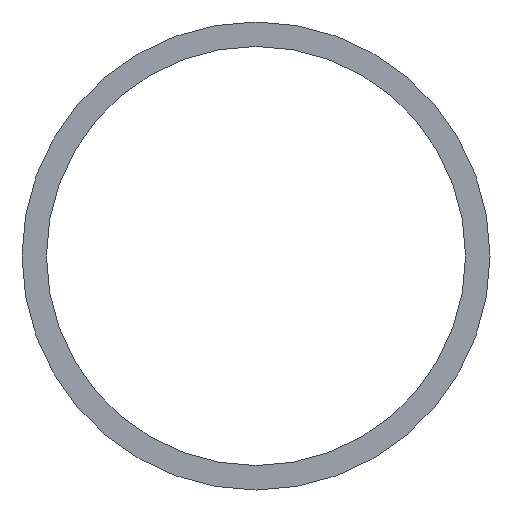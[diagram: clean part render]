
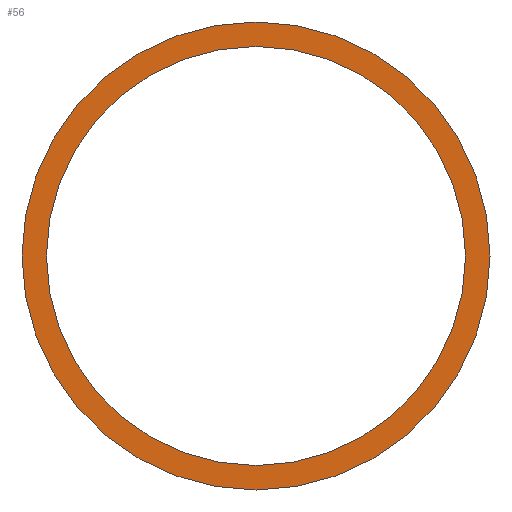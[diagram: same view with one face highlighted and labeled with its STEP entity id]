
A CAD part, front view. The second image highlights one B-rep face of the part: STEP entity #56.
In plain terms, the highlighted planar face has unit normal (0, -1, 0).
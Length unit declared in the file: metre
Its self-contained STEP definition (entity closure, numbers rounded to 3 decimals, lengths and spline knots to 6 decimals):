
#12=PLANE('',#94);
#16=ORIENTED_EDGE('',*,*,#24,.T.);
#17=ORIENTED_EDGE('',*,*,#22,.F.);
#22=EDGE_CURVE('',#26,#26,#30,.T.);
#24=EDGE_CURVE('',#28,#28,#32,.T.);
#26=VERTEX_POINT('',#120);
#28=VERTEX_POINT('',#125);
#30=CIRCLE('',#92,0.003);
#32=CIRCLE('',#95,0.002686);
#36=EDGE_LOOP('',(#16));
#37=EDGE_LOOP('',(#17));
#44=FACE_BOUND('',#36,.T.);
#45=FACE_BOUND('',#37,.T.);
#56=ADVANCED_FACE('',(#44,#45),#12,.F.);
#92=AXIS2_PLACEMENT_3D('',#119,#103,#104);
#94=AXIS2_PLACEMENT_3D('',#123,#107,#108);
#95=AXIS2_PLACEMENT_3D('',#124,#109,#110);
#103=DIRECTION('',(0.,1.,0.));
#104=DIRECTION('',(0.,0.,1.));
#107=DIRECTION('',(0.,1.,0.));
#108=DIRECTION('',(0.,0.,1.));
#109=DIRECTION('',(0.,1.,0.));
#110=DIRECTION('',(0.,0.,1.));
#119=CARTESIAN_POINT('',(0.021328,-0.058,-0.077258));
#120=CARTESIAN_POINT('',(0.021328,-0.058,-0.074258));
#123=CARTESIAN_POINT('',(0.021328,-0.058,-0.077258));
#124=CARTESIAN_POINT('',(0.021328,-0.058,-0.077258));
#125=CARTESIAN_POINT('',(0.021328,-0.058,-0.074571));
